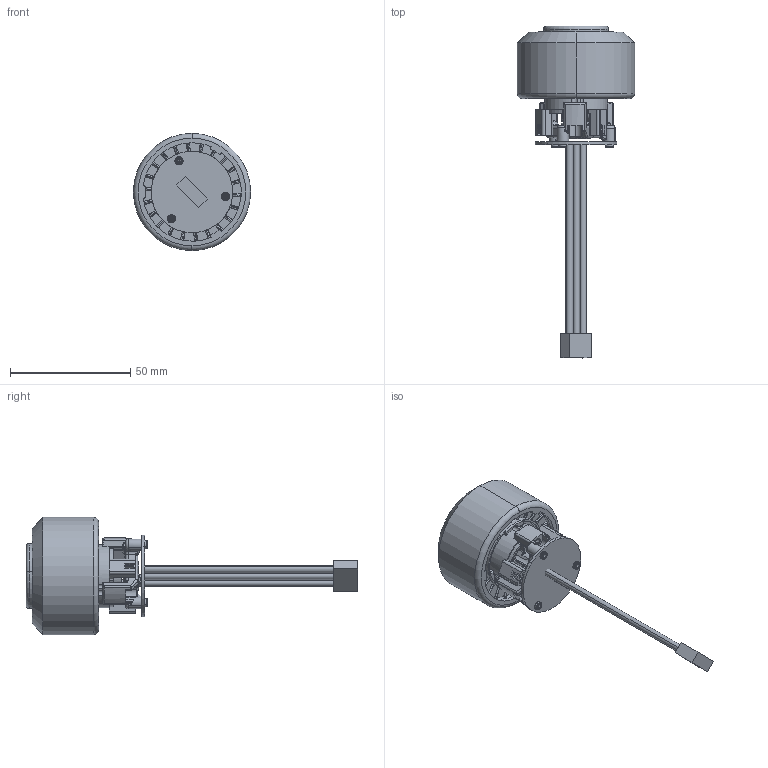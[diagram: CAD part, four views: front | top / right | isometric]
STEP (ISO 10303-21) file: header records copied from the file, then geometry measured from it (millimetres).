
FILE_DESCRIPTION (( 'STEP AP203' ), '1' );
FILE_NAME ('µç»ú.STEP', '2025-01-10T04:08:21', ( 'BBL' ), ( 'BBL' ), 'SwSTEP 2.0', 'SolidWorks 2023', '' );
FILE_SCHEMA (( 'CONFIG_CONTROL_DESIGN' ));
Length unit declared in the file: millimetre
Products named in the file (4): 复件 BAMB-MOT-01-V01BOARD_OUTLINE^装配体1_V2.0_cleaner_asm; 电机; 复件 V2.0_Slicone case^装配体1_V2.0_cleaner_asm; 复件 CH45-motor^装配体1_V2.0_cleaner_asm
Assembly tree (3 placements, depth 2):
  电机
    复件 CH45-motor^装配体1_V2.0_cleaner_asm
    复件 BAMB-MOT-01-V01BOARD_OUTLINE^装配体1_V2.0_cleaner_asm
    复件 V2.0_Slicone case^装配体1_V2.0_cleaner_asm
Bounding box: 48.8 x 138.3 x 48.8 mm (x, y, z)
Volume: 53439.2 mm3; surface area: 29811.7 mm2
Topology: 2 solids, 4 shells, 1733 faces, 4696 edges, 2993 vertices
Faces by surface type: plane 643, cylinder 422, bspline 392, torus 190, cone 77, sphere 9
Entity records: 71023 total; most frequent: CARTESIAN_POINT 29656, ORIENTED_EDGE 9350, DIRECTION 7445, EDGE_CURVE 4675, VERTEX_POINT 2993, AXIS2_PLACEMENT_3D 2610, VECTOR 2225, LINE 2225
